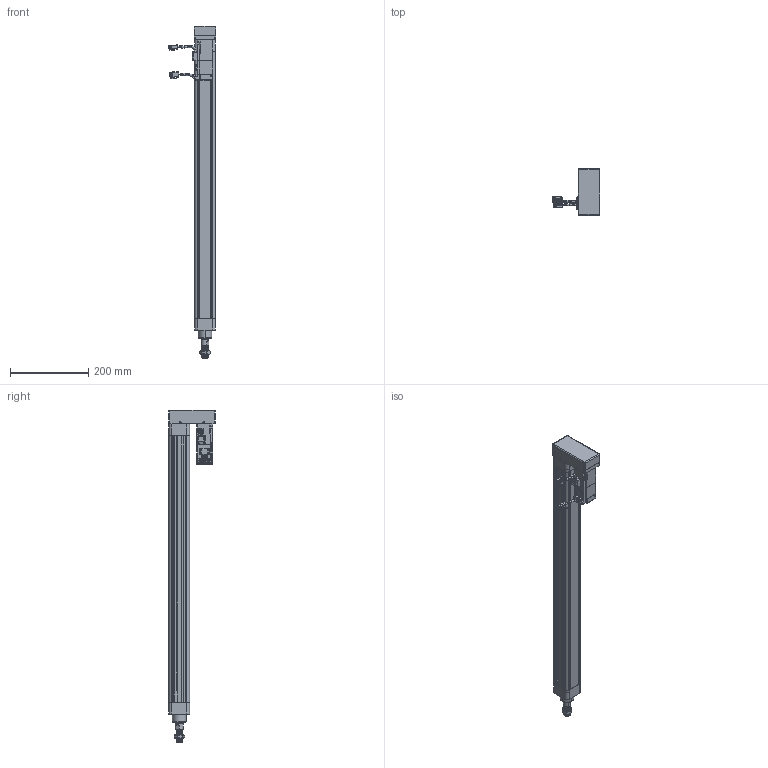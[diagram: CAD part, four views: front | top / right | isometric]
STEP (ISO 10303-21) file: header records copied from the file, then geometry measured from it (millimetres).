
FILE_DESCRIPTION (( 'STEP AP203' ), '1' );
FILE_NAME ('VEC50-10-C-600-MF-ZP10B-MS2.STEP', '2019-01-26T02:53:39', ( 'vobosh 6' ), ( 'Microsoft' ), 'SwSTEP 2.0', 'SolidWorks 2016', '' );
FILE_SCHEMA (( 'CONFIG_CONTROL_DESIGN' ));
Length unit declared in the file: millimetre
Products named in the file (12): 鞠褒蹟譫M16x1.5; VEC50-MF-200-004-X1; VEC50-MF-200-001-X1; MHMF012L1V2; VEC50-MF-200-002-X1; VEC50-MF-200-005-X1; VEC50-MF-200-003-X1; VEC50-10-C-600-MF-ZP10B-MS2; 带尾螺母M6x9x45（镀镍）; 柈ч肣薦え耳9x耳8.5x4.4; VEC50-MF-200-011-X1; CS1-M
Assembly tree (20 placements, depth 2):
  VEC50-10-C-600-MF-ZP10B-MS2
    VEC50-MF-200-001-X1
    VEC50-MF-200-002-X1
    VEC50-MF-200-003-X1
    带尾螺母M6x9x45（镀镍）  x8
    柈ч肣薦え耳9x耳8.5x4.4  x2
    VEC50-MF-200-011-X1
    CS1-M  x2
    鞠褒蹟譫M16x1.5
    VEC50-MF-200-004-X1
    MHMF012L1V2
    VEC50-MF-200-005-X1
Bounding box: 122.5 x 118 x 849 mm (x, y, z)
Volume: 1264844.8 mm3; surface area: 456351.8 mm2
Topology: 27 solids, 27 shells, 1970 faces, 4861 edges, 3048 vertices
Faces by surface type: plane 902, cylinder 703, cone 239, bspline 117, torus 9
Entity records: 59744 total; most frequent: CARTESIAN_POINT 16772, DIRECTION 8631, ORIENTED_EDGE 8630, EDGE_CURVE 4315, AXIS2_PLACEMENT_3D 2988, VERTEX_POINT 2755, VECTOR 2655, LINE 2655
